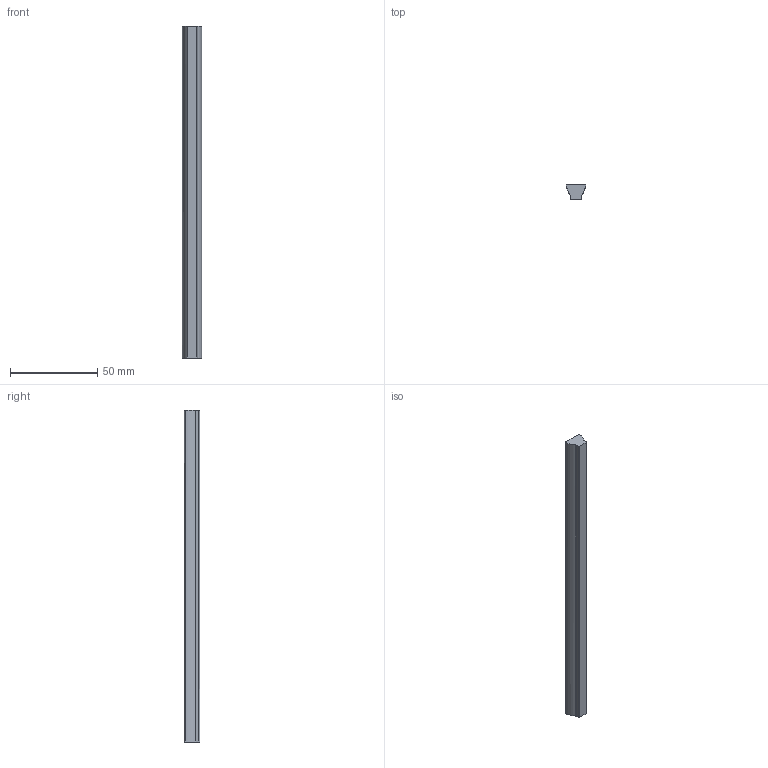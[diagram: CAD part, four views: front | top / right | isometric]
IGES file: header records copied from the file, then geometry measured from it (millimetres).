
Start section: SolidWorks IGES file using analytic representation for surfaces
Global section: file name: X:\11_SW2020-Inv2020\00_全2021-11新製品まで\m\MBDES04LW\mbdes04lw.IGS; native system: SolidWorks 2020; preprocessor: SolidWorks 2020; author: ImaoCorp; date: 211026.110405; units: millimetre
Bounding box: 11.06 x 8.74 x 190.5 mm (x, y, z)
Surface area: 6884.9 mm2 (no closed solid volume)
Topology: 0 solids, 0 shells, 15 faces, 119 edges, 119 vertices
Faces by surface type: bspline 12, revolution 3
